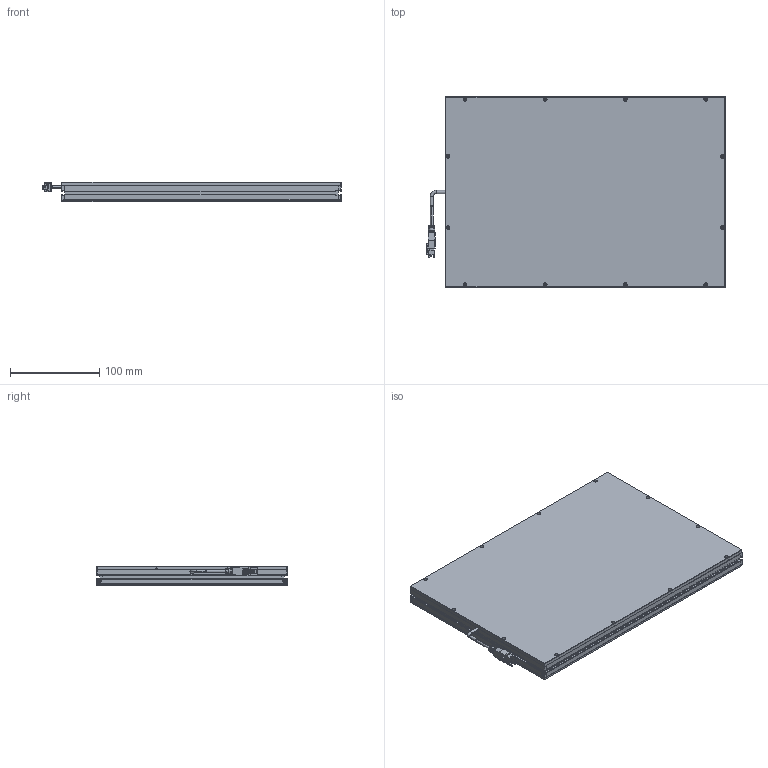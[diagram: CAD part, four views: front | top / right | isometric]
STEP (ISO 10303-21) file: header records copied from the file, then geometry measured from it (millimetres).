
FILE_DESCRIPTION (( 'STEP AP203' ), '1' );
FILE_NAME ('CRT-2PFLD300200-¼òÒ×3DÍ¼.STEP', '2021-11-27T02:45:39', ( 'Admin' ), ( '' ), 'SwSTEP 2.0', 'SolidWorks 2018', '' );
FILE_SCHEMA (( 'CONFIG_CONTROL_DESIGN' ));
Length unit declared in the file: millimetre
Products named in the file (1): CRT-2PFLD300200-潠眢3D芞
Bounding box: 334.95 x 214 x 22 mm (x, y, z)
Surface area: 304377.4 mm2 (no closed solid volume)
Topology: 0 solids, 8 shells, 282 faces, 1031 edges, 723 vertices
Faces by surface type: plane 175, cylinder 89, cone 11, bspline 7
Entity records: 11371 total; most frequent: CARTESIAN_POINT 2649, DIRECTION 1812, ORIENTED_EDGE 1607, EDGE_CURVE 1029, VERTEX_POINT 723, VECTOR 672, LINE 672, AXIS2_PLACEMENT_3D 570
